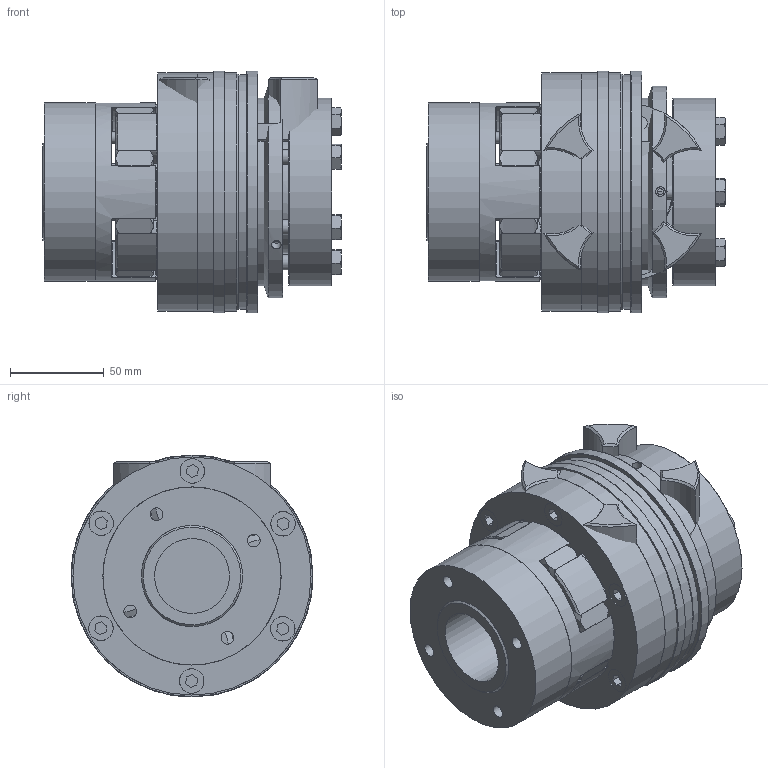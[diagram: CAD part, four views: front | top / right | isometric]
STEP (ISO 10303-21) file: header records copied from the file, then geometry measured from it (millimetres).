
FILE_DESCRIPTION( ( 'Unknown' ), '1' );
FILE_NAME( 'C:/Dokumente und Einstellungen/Sven/Desktop/hp kbk/E-AA/KBK EAA-42-179.stp', 'Unknown', ( 'Unknown' ), ( 'Unknown' ), 'XStep 1.0', 'Unknown', ' ' );
FILE_SCHEMA( ( 'automotive_design' ) );
Length unit declared in the file: millimetre
Products named in the file (19): Assem1; Assem2; Assem3; Assem4; Zylinderschraube DIN 912_6; ball_bearing_-_6013_0_01; ball_bearing_-_6013_0_02; ball_bearing_-_6013_0_03; Stellring 500; Druckring 500; Flansch 500; a_65; KBK L-A-500 Grundkörper; Druckring L-A-500; din_en_24017_m8x35; Elastormerflansch 42; Zahnkranz 42; KBE 3 - 42_Druckring; KBE 3 C- 42_Nabe
Bounding box: 159.35 x 129 x 129 mm (x, y, z)
Volume: 2287222.9 mm3; surface area: 643596.6 mm2
Topology: 44 solids, 44 shells, 1055 faces, 2370 edges, 1530 vertices
Faces by surface type: cylinder 368, plane 359, cone 270, torus 58
Full cylindrical faces by diameter (mm): 3 x4, 3.242 x6, 5.1 x6, 5.2 x6, 6 x16, 6.647 x24, 6.8 x16, 8 x15, 8.2 x12, 8.5 x12, 8.8 x8, 11.63 x7, 13 x8, 13.1 x12, 15 x8, 35 x2, 40 x4, 46 x4, 58 x2, 62 x2, 65 x7, 65.111 x2, 76.3 x6, 86 x4, 89.1 x6, 91 x2, 95 x4, 100 x9, 104.5 x2, 113 x2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
Entity records: 12144 total; most frequent: CARTESIAN_POINT 2673, DIRECTION 2042, ORIENTED_EDGE 1546, AXIS2_PLACEMENT_3D 950, EDGE_CURVE 773, EDGE_LOOP 704, VERTEX_POINT 579, FACE_OUTER_BOUND 538
